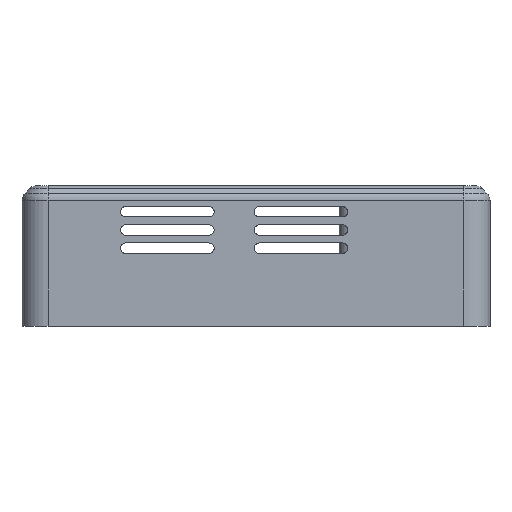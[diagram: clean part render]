
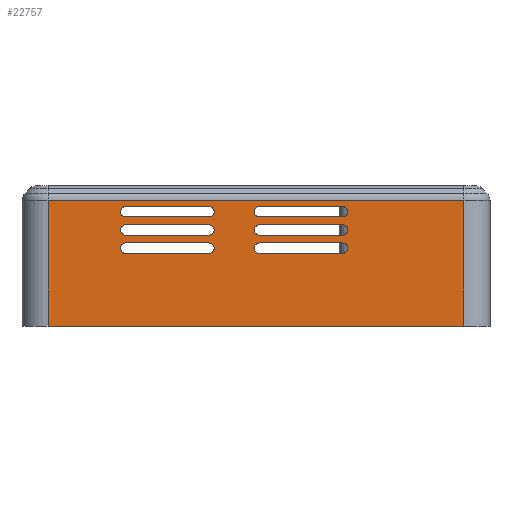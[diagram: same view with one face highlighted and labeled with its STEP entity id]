
A CAD part, left-side view. The second image highlights one B-rep face of the part: STEP entity #22757.
In plain terms, the highlighted planar face has unit normal (-1, 0, 0).
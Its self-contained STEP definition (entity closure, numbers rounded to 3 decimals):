
#170=DIRECTION('',(0.,-1.,0.));
#171=VECTOR('',#170,80.);
#172=CARTESIAN_POINT('',(-60.,43.5,-5.));
#173=LINE('',#172,#171);
#4771=DIRECTION('',(0.,0.,-1.));
#4772=VECTOR('',#4771,24.172);
#4773=CARTESIAN_POINT('',(-60.,43.5,19.172));
#4774=LINE('',#4773,#4772);
#4775=DIRECTION('',(0.,1.,0.));
#4776=VECTOR('',#4775,80.);
#4777=CARTESIAN_POINT('',(-60.,-36.5,19.172));
#4778=LINE('',#4777,#4776);
#4779=DIRECTION('',(0.,0.,-1.));
#4780=VECTOR('',#4779,24.172);
#4781=CARTESIAN_POINT('',(-60.,-36.5,19.172));
#4782=LINE('',#4781,#4780);
#4783=CARTESIAN_POINT('',(-60.,-13.147,13.5));
#4784=DIRECTION('',(-1.,0.,0.));
#4785=DIRECTION('',(0.,0.,-1.));
#4786=AXIS2_PLACEMENT_3D('',#4783,#4784,#4785);
#4788=DIRECTION('',(0.,-1.,0.));
#4789=VECTOR('',#4788,16.);
#4790=CARTESIAN_POINT('',(-60.,2.853,14.5));
#4791=LINE('',#4790,#4789);
#4792=CARTESIAN_POINT('',(-60.,2.853,13.5));
#4793=DIRECTION('',(-1.,0.,0.));
#4794=DIRECTION('',(0.,0.,1.));
#4795=AXIS2_PLACEMENT_3D('',#4792,#4793,#4794);
#4797=DIRECTION('',(0.,1.,0.));
#4798=VECTOR('',#4797,16.);
#4799=CARTESIAN_POINT('',(-60.,-13.147,12.5));
#4800=LINE('',#4799,#4798);
#4801=CARTESIAN_POINT('',(-60.,-13.147,17.));
#4802=DIRECTION('',(-1.,0.,0.));
#4803=DIRECTION('',(0.,0.,-1.));
#4804=AXIS2_PLACEMENT_3D('',#4801,#4802,#4803);
#4806=DIRECTION('',(0.,-1.,0.));
#4807=VECTOR('',#4806,16.);
#4808=CARTESIAN_POINT('',(-60.,2.853,18.));
#4809=LINE('',#4808,#4807);
#4810=CARTESIAN_POINT('',(-60.,2.853,17.));
#4811=DIRECTION('',(-1.,0.,0.));
#4812=DIRECTION('',(0.,0.,1.));
#4813=AXIS2_PLACEMENT_3D('',#4810,#4811,#4812);
#4815=DIRECTION('',(0.,1.,0.));
#4816=VECTOR('',#4815,16.);
#4817=CARTESIAN_POINT('',(-60.,-13.147,16.));
#4818=LINE('',#4817,#4816);
#4819=CARTESIAN_POINT('',(-60.,-13.147,10.));
#4820=DIRECTION('',(-1.,0.,0.));
#4821=DIRECTION('',(0.,0.,-1.));
#4822=AXIS2_PLACEMENT_3D('',#4819,#4820,#4821);
#4824=DIRECTION('',(0.,-1.,0.));
#4825=VECTOR('',#4824,16.);
#4826=CARTESIAN_POINT('',(-60.,2.853,11.));
#4827=LINE('',#4826,#4825);
#4828=CARTESIAN_POINT('',(-60.,2.853,10.));
#4829=DIRECTION('',(-1.,0.,0.));
#4830=DIRECTION('',(0.,0.,1.));
#4831=AXIS2_PLACEMENT_3D('',#4828,#4829,#4830);
#4833=DIRECTION('',(0.,1.,0.));
#4834=VECTOR('',#4833,16.);
#4835=CARTESIAN_POINT('',(-60.,-13.147,9.));
#4836=LINE('',#4835,#4834);
#4837=CARTESIAN_POINT('',(-60.,28.553,17.));
#4838=DIRECTION('',(-1.,0.,0.));
#4839=DIRECTION('',(0.,0.,1.));
#4840=AXIS2_PLACEMENT_3D('',#4837,#4838,#4839);
#4842=DIRECTION('',(0.,1.,0.));
#4843=VECTOR('',#4842,16.);
#4844=CARTESIAN_POINT('',(-60.,12.553,16.));
#4845=LINE('',#4844,#4843);
#4846=CARTESIAN_POINT('',(-60.,12.553,17.));
#4847=DIRECTION('',(-1.,0.,0.));
#4848=DIRECTION('',(0.,0.,-1.));
#4849=AXIS2_PLACEMENT_3D('',#4846,#4847,#4848);
#4851=DIRECTION('',(0.,-1.,0.));
#4852=VECTOR('',#4851,16.);
#4853=CARTESIAN_POINT('',(-60.,28.553,18.));
#4854=LINE('',#4853,#4852);
#4855=DIRECTION('',(0.,1.,0.));
#4856=VECTOR('',#4855,16.);
#4857=CARTESIAN_POINT('',(-60.,12.553,12.5));
#4858=LINE('',#4857,#4856);
#4859=CARTESIAN_POINT('',(-60.,12.553,13.5));
#4860=DIRECTION('',(-1.,0.,0.));
#4861=DIRECTION('',(0.,0.,-1.));
#4862=AXIS2_PLACEMENT_3D('',#4859,#4860,#4861);
#4864=DIRECTION('',(0.,-1.,0.));
#4865=VECTOR('',#4864,16.);
#4866=CARTESIAN_POINT('',(-60.,28.553,14.5));
#4867=LINE('',#4866,#4865);
#4868=CARTESIAN_POINT('',(-60.,28.553,13.5));
#4869=DIRECTION('',(-1.,0.,0.));
#4870=DIRECTION('',(0.,0.,1.));
#4871=AXIS2_PLACEMENT_3D('',#4868,#4869,#4870);
#4873=CARTESIAN_POINT('',(-60.,12.553,10.));
#4874=DIRECTION('',(-1.,0.,0.));
#4875=DIRECTION('',(0.,0.,-1.));
#4876=AXIS2_PLACEMENT_3D('',#4873,#4874,#4875);
#4878=DIRECTION('',(0.,-1.,0.));
#4879=VECTOR('',#4878,16.);
#4880=CARTESIAN_POINT('',(-60.,28.553,11.));
#4881=LINE('',#4880,#4879);
#4882=CARTESIAN_POINT('',(-60.,28.553,10.));
#4883=DIRECTION('',(-1.,0.,0.));
#4884=DIRECTION('',(0.,0.,1.));
#4885=AXIS2_PLACEMENT_3D('',#4882,#4883,#4884);
#4887=DIRECTION('',(0.,1.,0.));
#4888=VECTOR('',#4887,16.);
#4889=CARTESIAN_POINT('',(-60.,12.553,9.));
#4890=LINE('',#4889,#4888);
#14949=CARTESIAN_POINT('',(-60.,-36.5,19.172));
#14950=VERTEX_POINT('',#14949);
#14953=CARTESIAN_POINT('',(-60.,43.5,19.172));
#14954=VERTEX_POINT('',#14953);
#15191=CARTESIAN_POINT('',(-60.,43.5,-5.));
#15192=CARTESIAN_POINT('',(-60.,-36.5,-5.));
#15193=VERTEX_POINT('',#15191);
#15194=VERTEX_POINT('',#15192);
#15578=CARTESIAN_POINT('',(-60.,-13.147,11.));
#15580=VERTEX_POINT('',#15578);
#15586=CARTESIAN_POINT('',(-60.,-13.147,14.5));
#15588=VERTEX_POINT('',#15586);
#15594=CARTESIAN_POINT('',(-60.,-13.147,18.));
#15596=VERTEX_POINT('',#15594);
#15602=CARTESIAN_POINT('',(-60.,2.853,9.));
#15604=VERTEX_POINT('',#15602);
#15610=CARTESIAN_POINT('',(-60.,2.853,16.));
#15612=VERTEX_POINT('',#15610);
#15618=CARTESIAN_POINT('',(-60.,2.853,12.5));
#15620=VERTEX_POINT('',#15618);
#15633=CARTESIAN_POINT('',(-60.,-13.147,16.));
#15634=VERTEX_POINT('',#15633);
#15635=CARTESIAN_POINT('',(-60.,2.853,18.));
#15636=VERTEX_POINT('',#15635);
#15637=CARTESIAN_POINT('',(-60.,-13.147,12.5));
#15638=VERTEX_POINT('',#15637);
#15639=CARTESIAN_POINT('',(-60.,2.853,14.5));
#15640=VERTEX_POINT('',#15639);
#15661=CARTESIAN_POINT('',(-60.,-13.147,9.));
#15662=VERTEX_POINT('',#15661);
#15663=CARTESIAN_POINT('',(-60.,2.853,11.));
#15664=VERTEX_POINT('',#15663);
#15708=CARTESIAN_POINT('',(-60.,28.553,16.));
#15710=VERTEX_POINT('',#15708);
#15716=CARTESIAN_POINT('',(-60.,28.553,12.5));
#15718=VERTEX_POINT('',#15716);
#15724=CARTESIAN_POINT('',(-60.,28.553,9.));
#15726=VERTEX_POINT('',#15724);
#15740=CARTESIAN_POINT('',(-60.,12.553,12.5));
#15742=VERTEX_POINT('',#15740);
#15748=CARTESIAN_POINT('',(-60.,12.553,18.));
#15750=VERTEX_POINT('',#15748);
#15756=CARTESIAN_POINT('',(-60.,12.553,9.));
#15758=VERTEX_POINT('',#15756);
#15775=CARTESIAN_POINT('',(-60.,12.553,16.));
#15776=VERTEX_POINT('',#15775);
#15777=CARTESIAN_POINT('',(-60.,28.553,18.));
#15778=VERTEX_POINT('',#15777);
#15779=CARTESIAN_POINT('',(-60.,28.553,14.5));
#15780=CARTESIAN_POINT('',(-60.,12.553,14.5));
#15781=VERTEX_POINT('',#15779);
#15782=VERTEX_POINT('',#15780);
#15783=CARTESIAN_POINT('',(-60.,28.553,11.));
#15784=CARTESIAN_POINT('',(-60.,12.553,11.));
#15785=VERTEX_POINT('',#15783);
#15786=VERTEX_POINT('',#15784);
#22684=CARTESIAN_POINT('',(-60.,48.5,-12.));
#22685=DIRECTION('',(-1.,0.,0.));
#22686=DIRECTION('',(0.,-1.,0.));
#22687=AXIS2_PLACEMENT_3D('',#22684,#22685,#22686);
#22688=PLANE('',#22687);
#22689=ORIENTED_EDGE('',*,*,#19126,.F.);
#22691=ORIENTED_EDGE('',*,*,#22690,.F.);
#22693=ORIENTED_EDGE('',*,*,#22692,.F.);
#22695=ORIENTED_EDGE('',*,*,#22694,.T.);
#22696=EDGE_LOOP('',(#22689,#22691,#22693,#22695));
#22697=FACE_OUTER_BOUND('',#22696,.F.);
#22698=ORIENTED_EDGE('',*,*,#22662,.T.);
#22700=ORIENTED_EDGE('',*,*,#22699,.F.);
#22702=ORIENTED_EDGE('',*,*,#22701,.T.);
#22704=ORIENTED_EDGE('',*,*,#22703,.F.);
#22705=EDGE_LOOP('',(#22698,#22700,#22702,#22704));
#22706=FACE_BOUND('',#22705,.F.);
#22708=ORIENTED_EDGE('',*,*,#22707,.T.);
#22710=ORIENTED_EDGE('',*,*,#22709,.F.);
#22712=ORIENTED_EDGE('',*,*,#22711,.T.);
#22714=ORIENTED_EDGE('',*,*,#22713,.F.);
#22715=EDGE_LOOP('',(#22708,#22710,#22712,#22714));
#22716=FACE_BOUND('',#22715,.F.);
#22718=ORIENTED_EDGE('',*,*,#22717,.T.);
#22720=ORIENTED_EDGE('',*,*,#22719,.F.);
#22722=ORIENTED_EDGE('',*,*,#22721,.T.);
#22724=ORIENTED_EDGE('',*,*,#22723,.F.);
#22725=EDGE_LOOP('',(#22718,#22720,#22722,#22724));
#22726=FACE_BOUND('',#22725,.F.);
#22728=ORIENTED_EDGE('',*,*,#22727,.T.);
#22730=ORIENTED_EDGE('',*,*,#22729,.F.);
#22732=ORIENTED_EDGE('',*,*,#22731,.T.);
#22734=ORIENTED_EDGE('',*,*,#22733,.F.);
#22735=EDGE_LOOP('',(#22728,#22730,#22732,#22734));
#22736=FACE_BOUND('',#22735,.F.);
#22738=ORIENTED_EDGE('',*,*,#22737,.F.);
#22740=ORIENTED_EDGE('',*,*,#22739,.T.);
#22742=ORIENTED_EDGE('',*,*,#22741,.F.);
#22744=ORIENTED_EDGE('',*,*,#22743,.T.);
#22745=EDGE_LOOP('',(#22738,#22740,#22742,#22744));
#22746=FACE_BOUND('',#22745,.F.);
#22748=ORIENTED_EDGE('',*,*,#22747,.T.);
#22750=ORIENTED_EDGE('',*,*,#22749,.F.);
#22752=ORIENTED_EDGE('',*,*,#22751,.T.);
#22754=ORIENTED_EDGE('',*,*,#22753,.F.);
#22755=EDGE_LOOP('',(#22748,#22750,#22752,#22754));
#22756=FACE_BOUND('',#22755,.F.);
#4787=CIRCLE('',#4786,1.);
#4796=CIRCLE('',#4795,1.);
#4805=CIRCLE('',#4804,1.);
#4814=CIRCLE('',#4813,1.);
#4823=CIRCLE('',#4822,1.);
#4832=CIRCLE('',#4831,1.);
#4841=CIRCLE('',#4840,1.);
#4850=CIRCLE('',#4849,1.);
#4863=CIRCLE('',#4862,1.);
#4872=CIRCLE('',#4871,1.);
#4877=CIRCLE('',#4876,1.);
#4886=CIRCLE('',#4885,1.);
#19126=EDGE_CURVE('',#15193,#15194,#173,.T.);
#22662=EDGE_CURVE('',#15638,#15588,#4787,.T.);
#22690=EDGE_CURVE('',#14954,#15193,#4774,.T.);
#22692=EDGE_CURVE('',#14950,#14954,#4778,.T.);
#22694=EDGE_CURVE('',#14950,#15194,#4782,.T.);
#22699=EDGE_CURVE('',#15640,#15588,#4791,.T.);
#22701=EDGE_CURVE('',#15640,#15620,#4796,.T.);
#22703=EDGE_CURVE('',#15638,#15620,#4800,.T.);
#22707=EDGE_CURVE('',#15634,#15596,#4805,.T.);
#22709=EDGE_CURVE('',#15636,#15596,#4809,.T.);
#22711=EDGE_CURVE('',#15636,#15612,#4814,.T.);
#22713=EDGE_CURVE('',#15634,#15612,#4818,.T.);
#22717=EDGE_CURVE('',#15662,#15580,#4823,.T.);
#22719=EDGE_CURVE('',#15664,#15580,#4827,.T.);
#22721=EDGE_CURVE('',#15664,#15604,#4832,.T.);
#22723=EDGE_CURVE('',#15662,#15604,#4836,.T.);
#22727=EDGE_CURVE('',#15778,#15710,#4841,.T.);
#22729=EDGE_CURVE('',#15776,#15710,#4845,.T.);
#22731=EDGE_CURVE('',#15776,#15750,#4850,.T.);
#22733=EDGE_CURVE('',#15778,#15750,#4854,.T.);
#22737=EDGE_CURVE('',#15742,#15718,#4858,.T.);
#22739=EDGE_CURVE('',#15742,#15782,#4863,.T.);
#22741=EDGE_CURVE('',#15781,#15782,#4867,.T.);
#22743=EDGE_CURVE('',#15781,#15718,#4872,.T.);
#22747=EDGE_CURVE('',#15758,#15786,#4877,.T.);
#22749=EDGE_CURVE('',#15785,#15786,#4881,.T.);
#22751=EDGE_CURVE('',#15785,#15726,#4886,.T.);
#22753=EDGE_CURVE('',#15758,#15726,#4890,.T.);
#22757=ADVANCED_FACE('',(#22697,#22706,#22716,#22726,#22736,#22746,#22756),
#22688,.T.);
